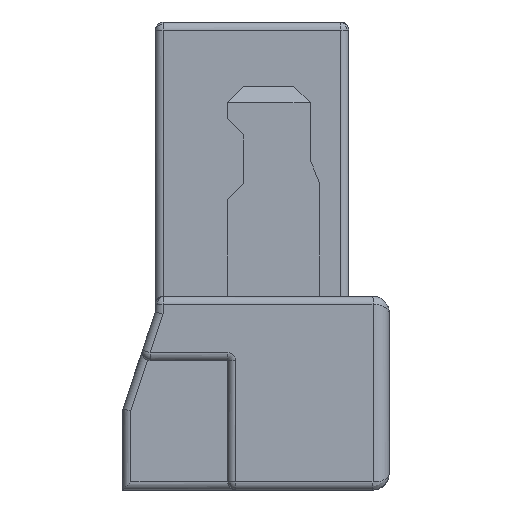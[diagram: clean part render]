
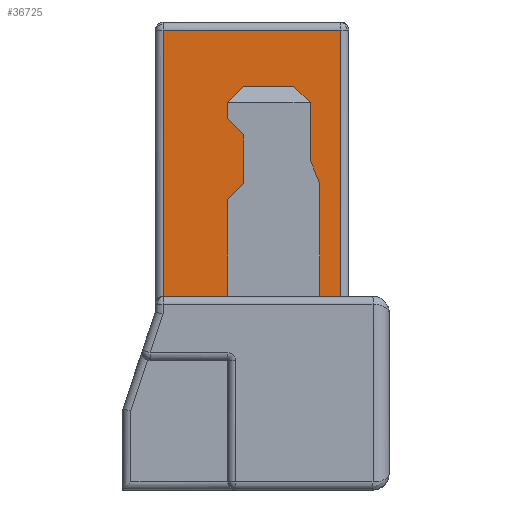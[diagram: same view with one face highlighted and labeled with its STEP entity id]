
A CAD part, left-side view. The second image highlights one B-rep face of the part: STEP entity #36725.
In plain terms, the highlighted planar face has unit normal (-1, 0, 0).
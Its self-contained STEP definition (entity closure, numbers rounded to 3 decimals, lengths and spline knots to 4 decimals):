
#2196=DIRECTION('',(0.,0.,1.));
#2197=VECTOR('',#2196,1.65);
#2198=CARTESIAN_POINT('',(-16.09,1.4,1.2));
#2199=LINE('',#2198,#2197);
#2225=DIRECTION('',(0.,-1.,0.));
#2226=VECTOR('',#2225,1.1);
#2227=CARTESIAN_POINT('',(-16.09,1.4,2.85));
#2228=LINE('',#2227,#2226);
#2233=DIRECTION('',(0.,0.,-1.));
#2234=VECTOR('',#2233,0.354);
#2235=CARTESIAN_POINT('',(-16.09,0.49,2.4));
#2236=LINE('',#2235,#2234);
#2237=DIRECTION('',(0.,-0.707,-0.707));
#2238=VECTOR('',#2237,0.1414);
#2239=CARTESIAN_POINT('',(-16.09,0.59,2.5));
#2240=LINE('',#2239,#2238);
#2241=DIRECTION('',(0.,-0.707,0.707));
#2242=VECTOR('',#2241,0.1414);
#2243=CARTESIAN_POINT('',(-16.09,1.,2.4));
#2244=LINE('',#2243,#2242);
#2245=DIRECTION('',(0.,0.707,0.707));
#2246=VECTOR('',#2245,0.1414);
#2247=CARTESIAN_POINT('',(-16.09,0.9,2.2));
#2248=LINE('',#2247,#2246);
#2249=DIRECTION('',(0.,-0.707,0.707));
#2250=VECTOR('',#2249,0.1414);
#2251=CARTESIAN_POINT('',(-16.09,1.,1.8));
#2252=LINE('',#2251,#2250);
#2253=DIRECTION('',(0.,-1.,0.));
#2254=VECTOR('',#2253,0.4);
#2255=CARTESIAN_POINT('',(-16.09,1.4,1.2));
#2256=LINE('',#2255,#2254);
#2257=DIRECTION('',(0.,-1.,0.));
#2258=VECTOR('',#2257,0.13);
#2259=CARTESIAN_POINT('',(-16.09,0.43,1.2));
#2260=LINE('',#2259,#2258);
#2261=DIRECTION('',(0.,-0.38,-0.925));
#2262=VECTOR('',#2261,0.1578);
#2263=CARTESIAN_POINT('',(-16.09,0.49,2.046));
#2264=LINE('',#2263,#2262);
#2281=DIRECTION('',(0.,0.,1.));
#2282=VECTOR('',#2281,0.7);
#2283=CARTESIAN_POINT('',(-16.09,0.43,1.2));
#2284=LINE('',#2283,#2282);
#2321=DIRECTION('',(0.,0.,-1.));
#2322=VECTOR('',#2321,0.6);
#2323=CARTESIAN_POINT('',(-16.09,1.,1.8));
#2324=LINE('',#2323,#2322);
#2337=DIRECTION('',(0.,0.,-1.));
#2338=VECTOR('',#2337,0.3);
#2339=CARTESIAN_POINT('',(-16.09,0.9,2.2));
#2340=LINE('',#2339,#2338);
#2353=DIRECTION('',(0.,0.,-1.));
#2354=VECTOR('',#2353,0.1);
#2355=CARTESIAN_POINT('',(-16.09,1.,2.4));
#2356=LINE('',#2355,#2354);
#2369=DIRECTION('',(0.,1.,0.));
#2370=VECTOR('',#2369,0.31);
#2371=CARTESIAN_POINT('',(-16.09,0.59,2.5));
#2372=LINE('',#2371,#2370);
#2385=DIRECTION('',(0.,0.,-1.));
#2386=VECTOR('',#2385,1.65);
#2387=CARTESIAN_POINT('',(-16.09,0.3,2.85));
#2388=LINE('',#2387,#2386);
#26328=CARTESIAN_POINT('',(-16.09,1.,1.2));
#26330=VERTEX_POINT('',#26328);
#26332=CARTESIAN_POINT('',(-16.09,1.,1.8));
#26333=VERTEX_POINT('',#26332);
#27092=CARTESIAN_POINT('',(-16.09,0.49,2.4));
#27093=VERTEX_POINT('',#27092);
#27094=CARTESIAN_POINT('',(-16.09,0.49,2.046));
#27095=VERTEX_POINT('',#27094);
#27098=CARTESIAN_POINT('',(-16.09,0.59,2.5));
#27099=VERTEX_POINT('',#27098);
#27102=CARTESIAN_POINT('',(-16.09,0.43,1.9));
#27103=VERTEX_POINT('',#27102);
#28527=CARTESIAN_POINT('',(-16.09,1.,2.3));
#28528=VERTEX_POINT('',#28527);
#28529=CARTESIAN_POINT('',(-16.09,1.,2.4));
#28530=VERTEX_POINT('',#28529);
#28564=CARTESIAN_POINT('',(-16.09,1.4,2.85));
#28566=VERTEX_POINT('',#28564);
#28567=CARTESIAN_POINT('',(-16.09,1.4,1.2));
#28568=VERTEX_POINT('',#28567);
#28584=CARTESIAN_POINT('',(-16.09,0.9,2.5));
#28585=VERTEX_POINT('',#28584);
#28586=CARTESIAN_POINT('',(-16.09,0.9,2.2));
#28587=VERTEX_POINT('',#28586);
#28588=CARTESIAN_POINT('',(-16.09,0.9,1.9));
#28589=VERTEX_POINT('',#28588);
#28590=CARTESIAN_POINT('',(-16.09,0.3,2.85));
#28591=VERTEX_POINT('',#28590);
#28592=CARTESIAN_POINT('',(-16.09,0.3,1.2));
#28593=VERTEX_POINT('',#28592);
#28594=CARTESIAN_POINT('',(-16.09,0.43,1.2));
#28595=VERTEX_POINT('',#28594);
#36690=CARTESIAN_POINT('',(-16.09,0.715,1.8));
#36691=DIRECTION('',(1.,0.,0.));
#36692=DIRECTION('',(0.,1.,0.));
#36693=AXIS2_PLACEMENT_3D('',#36690,#36691,#36692);
#36694=PLANE('',#36693);
#36696=ORIENTED_EDGE('',*,*,#36695,.F.);
#36698=ORIENTED_EDGE('',*,*,#36697,.F.);
#36700=ORIENTED_EDGE('',*,*,#36699,.T.);
#36702=ORIENTED_EDGE('',*,*,#36701,.F.);
#36704=ORIENTED_EDGE('',*,*,#36703,.T.);
#36706=ORIENTED_EDGE('',*,*,#36705,.F.);
#36708=ORIENTED_EDGE('',*,*,#36707,.T.);
#36710=ORIENTED_EDGE('',*,*,#36709,.F.);
#36712=ORIENTED_EDGE('',*,*,#36711,.T.);
#36713=ORIENTED_EDGE('',*,*,#36476,.F.);
#36714=ORIENTED_EDGE('',*,*,#36644,.T.);
#36715=ORIENTED_EDGE('',*,*,#36680,.T.);
#36717=ORIENTED_EDGE('',*,*,#36716,.T.);
#36718=ORIENTED_EDGE('',*,*,#36484,.F.);
#36720=ORIENTED_EDGE('',*,*,#36719,.T.);
#36722=ORIENTED_EDGE('',*,*,#36721,.F.);
#36723=EDGE_LOOP('',(#36696,#36698,#36700,#36702,#36704,#36706,#36708,#36710,
#36712,#36713,#36714,#36715,#36717,#36718,#36720,#36722));
#36724=FACE_OUTER_BOUND('',#36723,.F.);
#36725=ADVANCED_FACE('',(#36724),#36694,.F.);
#36476=EDGE_CURVE('',#28568,#26330,#2256,.T.);
#36484=EDGE_CURVE('',#28595,#28593,#2260,.T.);
#36644=EDGE_CURVE('',#28568,#28566,#2199,.T.);
#36680=EDGE_CURVE('',#28566,#28591,#2228,.T.);
#36695=EDGE_CURVE('',#27093,#27095,#2236,.T.);
#36697=EDGE_CURVE('',#27099,#27093,#2240,.T.);
#36699=EDGE_CURVE('',#27099,#28585,#2372,.T.);
#36701=EDGE_CURVE('',#28530,#28585,#2244,.T.);
#36703=EDGE_CURVE('',#28530,#28528,#2356,.T.);
#36705=EDGE_CURVE('',#28587,#28528,#2248,.T.);
#36707=EDGE_CURVE('',#28587,#28589,#2340,.T.);
#36709=EDGE_CURVE('',#26333,#28589,#2252,.T.);
#36711=EDGE_CURVE('',#26333,#26330,#2324,.T.);
#36716=EDGE_CURVE('',#28591,#28593,#2388,.T.);
#36719=EDGE_CURVE('',#28595,#27103,#2284,.T.);
#36721=EDGE_CURVE('',#27095,#27103,#2264,.T.);
